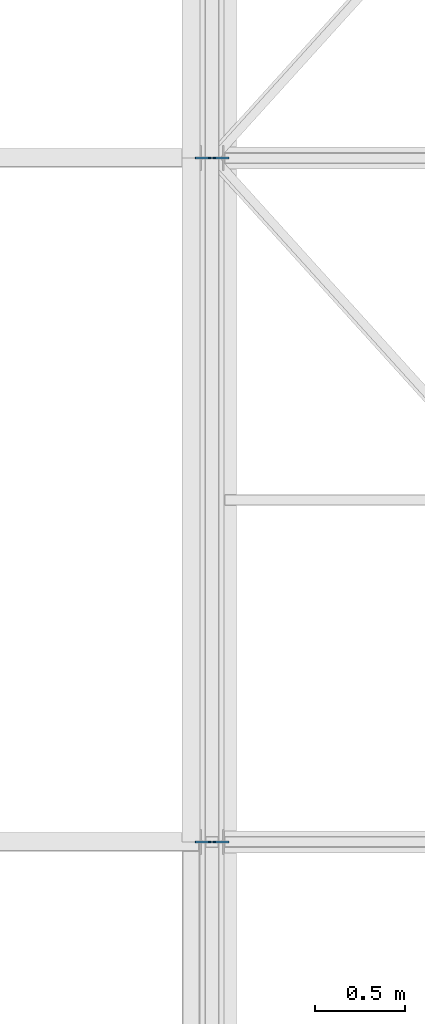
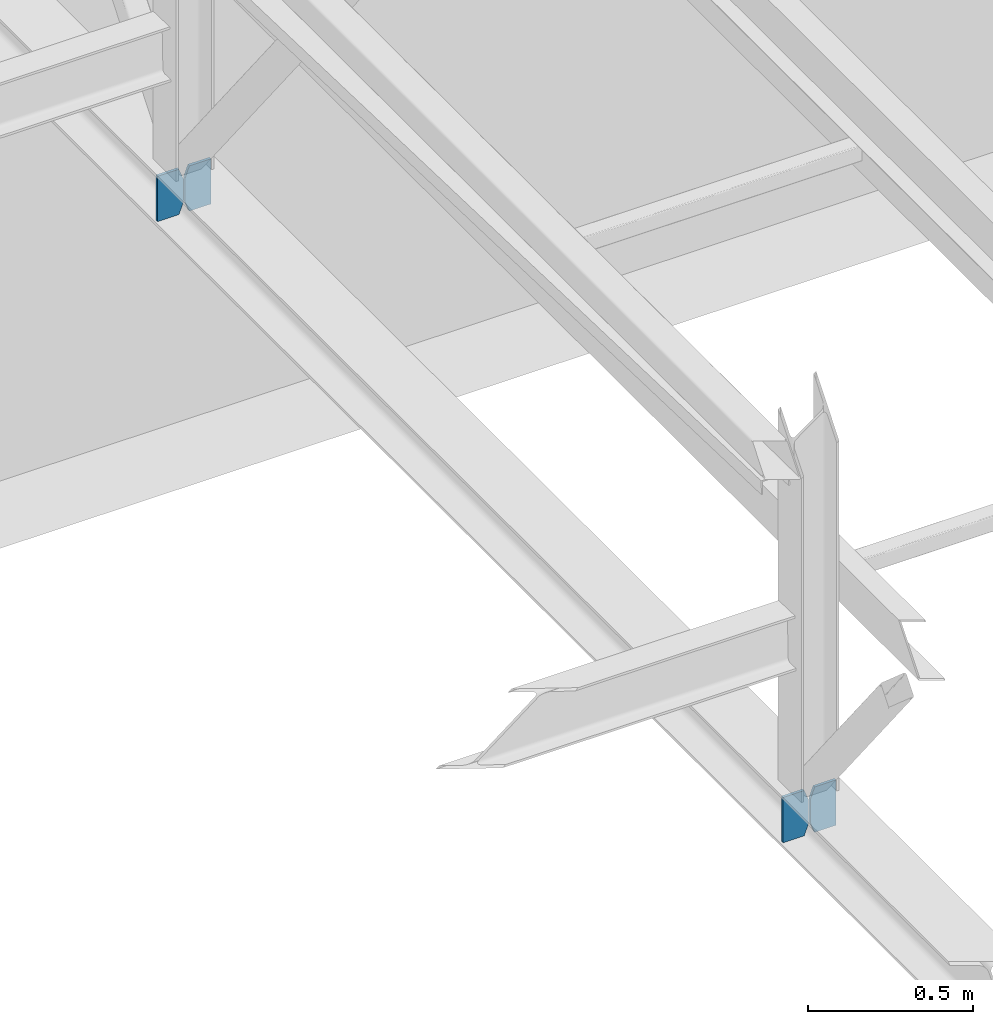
# One storey, part 72 of 123: 4 discrete accessories, 1 element without a shape of its own.
"""IFC2X3 building model written with IfcOpenShell, lengths in millimetres."""

from ifc_helpers import new_model, si_unit, frame, origin_with_axes, place, context, subcontext, project, spatial, polyline, outline, extrude, material, type_object, element, aggregate, save


model = new_model("IFC2X3")

# Units and contexts
model_context = context("Model", 3, precision=1e-05, world=origin_with_axes())
body_context = subcontext(model_context, "Body", "Model", "MODEL_VIEW")
ifc_project = project(units=[si_unit("LENGTHUNIT", "METRE", prefix="MILLI"), si_unit("AREAUNIT", "SQUARE_METRE"), si_unit("VOLUMEUNIT", "CUBIC_METRE"), si_unit("MASSUNIT", "GRAM", prefix="KILO"), si_unit("TIMEUNIT", "SECOND"), si_unit("PLANEANGLEUNIT", "RADIAN"), si_unit("SOLIDANGLEUNIT", "STERADIAN"), si_unit("THERMODYNAMICTEMPERATUREUNIT", "DEGREE_CELSIUS"), si_unit("LUMINOUSINTENSITYUNIT", "LUMEN")], contexts=[model_context])

# Site, building, storey
site_placement = place(None, origin_with_axes())
site = spatial("IfcSite", under=ifc_project, at=site_placement, Name="Undefined", CompositionType="ELEMENT")
building_placement = place(site_placement, origin_with_axes())
building = spatial("IfcBuilding", under=site, at=building_placement, Name="Undefined", CompositionType="ELEMENT")
storey_placement = place(building_placement, origin_with_axes())
storey = spatial("IfcBuildingStorey", under=building, at=storey_placement, Name="Undefined", CompositionType="ELEMENT", Elevation=0.0)

# Assembly, discrete accessories
assembly_placement = place(storey_placement, origin_with_axes())
assembly = element("IfcElementAssembly", 1, at=assembly_placement, inside=storey, Name="Steel Assembly", AssemblyPlace="NOTDEFINED", PredefinedType="RIGID_FRAME")
ifc_material = material(Name="STEEL/S235-E24")
discrete_accessory_type = type_object("IfcDiscreteAccessoryType", Name="RAIDISSEUR")
discrete_accessory_1_placement = place(assembly_placement, frame((12773.2499999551, 3799.99999992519, 7071.0), z_axis=(0.0, 1.0, 0.0), x_axis=(-1.0, 0.0, 0.0)))
discrete_accessory_1 = element("IfcDiscreteAccessory", 2, at=discrete_accessory_1_placement, type_object=discrete_accessory_type, material=ifc_material, Name="RAIDISSEUR", ObjectType="TOLE10*90", context=body_context, shape_type="SweptSolid", body=[
    extrude(outline(polyline([(0.0, 0.0), (75.0, 0.0), (90.0, 40.0), (90.0, 128.0), (75.0, 168.0), (0.0, 168.0), (0.0, 0.0)])), frame((0.0, 0.0, -5.0), z_axis=(0.0, 0.0, 1.0), x_axis=(1.0, 0.0, 0.0)), (0.0, 0.0, 1.0), 10.0),
])
discrete_accessory_2_placement = place(assembly_placement, frame((12676.7499999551, 3799.99999992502, 7071.0), z_axis=(0.0, 1.0, 0.0), x_axis=(-1.0, 0.0, 0.0)))
discrete_accessory_2 = element("IfcDiscreteAccessory", 3, at=discrete_accessory_2_placement, type_object=discrete_accessory_type, material=ifc_material, Name="RAIDISSEUR", ObjectType="TOLE10*90", context=body_context, shape_type="SweptSolid", body=[
    extrude(outline(polyline([(0.0, 40.0), (15.0, 0.0), (90.0, 0.0), (90.0, 168.0), (15.0, 168.0), (0.0, 128.0), (0.0, 40.0)])), frame((0.0, 0.0, -5.0), z_axis=(0.0, 0.0, 1.0), x_axis=(1.0, 0.0, 0.0)), (0.0, 0.0, 1.0), 10.0),
])
discrete_accessory_3_placement = place(assembly_placement, frame((12773.249999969, 7599.99999992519, 7071.0), z_axis=(0.0, 1.0, 0.0), x_axis=(-1.0, 0.0, 0.0)))
discrete_accessory_3 = element("IfcDiscreteAccessory", 4, at=discrete_accessory_3_placement, type_object=discrete_accessory_type, material=ifc_material, Name="RAIDISSEUR", ObjectType="TOLE10*90", context=body_context, shape_type="SweptSolid", body=[
    extrude(outline(polyline([(0.0, 0.0), (75.0, 0.0), (90.0, 40.0), (90.0, 128.0), (75.0, 168.0), (0.0, 168.0), (0.0, 0.0)])), frame((0.0, 0.0, -5.0), z_axis=(0.0, 0.0, 1.0), x_axis=(1.0, 0.0, 0.0)), (0.0, 0.0, 1.0), 10.0),
])
discrete_accessory_4_placement = place(assembly_placement, frame((12676.749999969, 7599.99999992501, 7071.0), z_axis=(0.0, 1.0, 0.0), x_axis=(-1.0, 0.0, 0.0)))
discrete_accessory_4 = element("IfcDiscreteAccessory", 5, at=discrete_accessory_4_placement, type_object=discrete_accessory_type, material=ifc_material, Name="RAIDISSEUR", ObjectType="TOLE10*90", context=body_context, shape_type="SweptSolid", body=[
    extrude(outline(polyline([(0.0, 40.0), (15.0, 0.0), (90.0, 0.0), (90.0, 168.0), (15.0, 168.0), (0.0, 128.0), (0.0, 40.0)])), frame((0.0, 0.0, -5.0), z_axis=(0.0, 0.0, 1.0), x_axis=(1.0, 0.0, 0.0)), (0.0, 0.0, 1.0), 10.0),
])
aggregate(assembly, [discrete_accessory_1, discrete_accessory_2, discrete_accessory_3, discrete_accessory_4])

save(model, "model.ifc")
